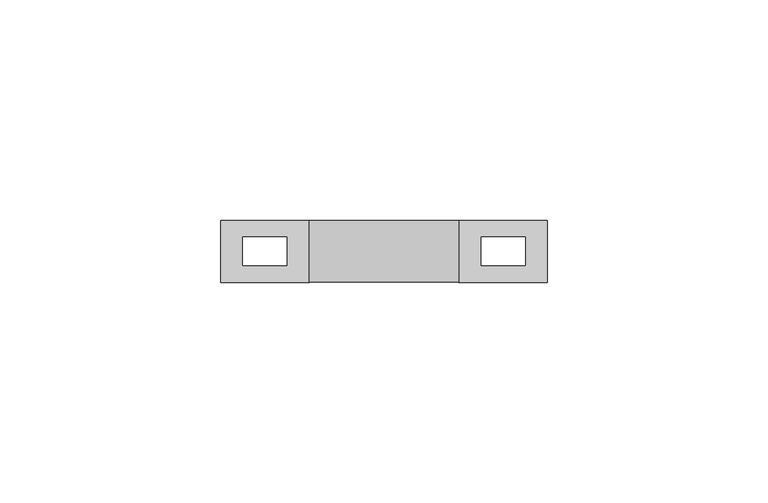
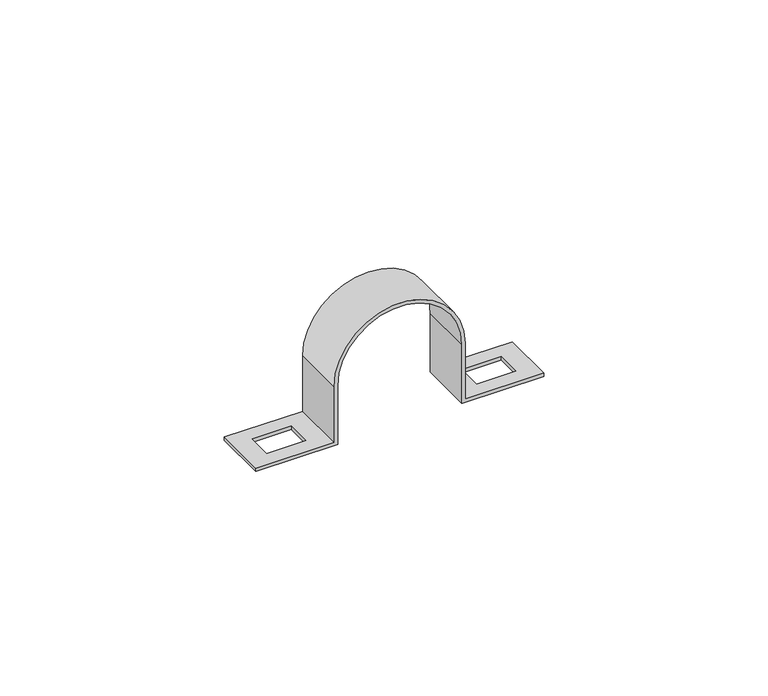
"""IFC4 building model written with IfcOpenShell, lengths in millimetres: cable carrier fitting geometry."""

from ifc_helpers import new_model, si_unit, frame, origin, place, context, project, spatial, polyline, circle_curve, source, transform, mapped, element, save
from ifc_brep_helpers import plane_surface, cylinder_surface, revolved_surface, advanced_brep


def cable_carrier_fitting_7ec1cf44(model_context):
    return source(origin(), model_context, "Body", "AdvancedBrep", [
        advanced_brep(
        [(37.0, -7.0, 0.0), (37.0, -7.0, 0.9), (16.9, -7.0, 0.9), (16.9, -7.0, 16.0), (-16.9, -7.0, 16.0), (-16.9, -7.0, 0.9), (-37.0, -7.0, 0.9), (-37.0, -7.0, 0.0), (-16.0, -7.0, 0.0), (-16.0, -7.0, 16.0), (16.0, -7.0, 16.0), (16.0, -7.0, 0.0), (37.0, 7.0, 0.0), (16.0, 7.0, 0.0), (16.0, 7.0, 16.0), (-16.0, 7.0, 16.0), (-16.0, 7.0, 0.0), (-37.0, 7.0, 0.0), (-37.0, 7.0, 0.9), (-16.9, 7.0, 0.9), (-16.9, 7.0, 16.0), (16.9, 7.0, 16.0), (16.9, 7.0, 0.9), (37.0, 7.0, 0.9), (32.0, -3.25, 0.9), (22.0, -3.25, 0.9), (22.0, 3.25, 0.9), (32.0, 3.25, 0.9), (-32.0, 3.25, 0.9), (-22.0, 3.25, 0.9), (-22.0, -3.25, 0.9), (-32.0, -3.25, 0.9), (-22.0, 3.25, 0.0), (-32.0, 3.25, 0.0), (-32.0, -3.25, 0.0), (-22.0, -3.25, 0.0), (22.0, -3.25, 0.0), (32.0, -3.25, 0.0), (32.0, 3.25, 0.0), (22.0, 3.25, 0.0)],
        [
            (0, 1),
            (1, 2),
            (2, 3),
            (3, 4, circle_curve(frame((0.0, -7.0, 16.0), z_axis=(0.0, -1.0, 0.0), x_axis=(1.0, 0.0, 0.0)), 16.9)),
            (4, 5),
            (5, 6),
            (6, 7),
            (7, 8),
            (8, 9),
            (9, 10, circle_curve(frame((0.0, -7.0, 16.0), z_axis=(0.0, 1.0, 0.0), x_axis=(1.0, 0.0, 0.0)), 16.0)),
            (10, 11),
            (11, 0),
            (12, 13),
            (13, 14),
            (14, 15, circle_curve(frame((0.0, 7.0, 16.0), z_axis=(0.0, -1.0, 0.0), x_axis=(1.0, 0.0, 0.0)), 16.0)),
            (15, 16),
            (16, 17),
            (17, 18),
            (18, 19),
            (19, 20),
            (20, 21, circle_curve(frame((0.0, 7.0, 16.0), z_axis=(0.0, 1.0, 0.0), x_axis=(1.0, 0.0, 0.0)), 16.9)),
            (21, 22),
            (22, 23),
            (23, 12),
            (0, 12),
            (23, 1),
            (22, 2),
            (24, 25),
            (25, 26),
            (26, 27),
            (27, 24),
            (21, 3),
            (20, 4),
            (19, 5),
            (18, 6),
            (28, 29),
            (29, 30),
            (30, 31),
            (31, 28),
            (17, 7),
            (16, 8),
            (32, 33),
            (33, 34),
            (34, 35),
            (35, 32),
            (15, 9),
            (14, 10),
            (13, 11),
            (36, 37),
            (37, 38),
            (38, 39),
            (39, 36),
            (32, 29),
            (28, 33),
            (31, 34),
            (30, 35),
            (36, 25),
            (24, 37),
            (27, 38),
            (26, 39),
        ],
        [
            plane_surface(frame((37.0, -7.0, 0.9), z_axis=(0.0, -1.0, 0.0), x_axis=(0.0, 0.0, 1.0))),
            plane_surface(frame((37.0, 7.0, 0.9), z_axis=(0.0, 1.0, 0.0), x_axis=(0.0, 0.0, -1.0))),
            plane_surface(frame((37.0, -7.0, 0.0), z_axis=(1.0, 0.0, 0.0), x_axis=(0.0, 1.0, 0.0))),
            plane_surface(frame((37.0, -7.0, 0.9), z_axis=(0.0, 0.0, 1.0), x_axis=(0.0, 1.0, 0.0))),
            plane_surface(frame((16.9, -7.0, 0.9), z_axis=(1.0, 0.0, 0.0), x_axis=(0.0, 1.0, 0.0))),
            cylinder_surface(frame((0.0, 7.0, 16.0), z_axis=(0.0, -1.0, 0.0), x_axis=(1.0, 0.0, 0.0)), 16.9),
            plane_surface(frame((-16.9, -7.0, 16.0), z_axis=(-1.0, 0.0, 0.0), x_axis=(0.0, 1.0, 0.0))),
            plane_surface(frame((-16.9, -7.0, 0.9), z_axis=(0.0, 0.0, 1.0), x_axis=(0.0, 1.0, 0.0))),
            plane_surface(frame((-37.0, -7.0, 0.9), z_axis=(-1.0, 0.0, 0.0), x_axis=(0.0, 1.0, 0.0))),
            plane_surface(frame((-37.0, -7.0, 0.0), z_axis=(0.0, 0.0, -1.0), x_axis=(0.0, 1.0, 0.0))),
            plane_surface(frame((-16.0, -7.0, 0.0), z_axis=(1.0, 0.0, 0.0), x_axis=(0.0, 1.0, 0.0))),
            revolved_surface(polyline([(16.0, 7.0, 16.0), (16.0, -7.0, 16.0)]), (0.0, 7.0, 16.0), (0.0, 1.0, 0.0)),
            plane_surface(frame((16.0, -7.0, 16.0), z_axis=(-1.0, 0.0, 0.0), x_axis=(0.0, 1.0, 0.0))),
            plane_surface(frame((16.0, -7.0, 0.0), z_axis=(0.0, 0.0, -1.0), x_axis=(0.0, 1.0, 0.0))),
            plane_surface(frame((-22.0, 3.25, 21.959409), z_axis=(0.0, -1.0, 0.0), x_axis=(0.0, 0.0, -1.0))),
            plane_surface(frame((-32.0, 3.25, 21.959409), z_axis=(1.0, 0.0, 0.0), x_axis=(0.0, 0.0, -1.0))),
            plane_surface(frame((-32.0, -3.25, 21.959409), z_axis=(0.0, 1.0, 0.0), x_axis=(0.0, 0.0, -1.0))),
            plane_surface(frame((-22.0, -3.25, 21.959409), z_axis=(-1.0, 0.0, 0.0), x_axis=(0.0, 0.0, -1.0))),
            plane_surface(frame((22.0, -3.25, 21.959409), z_axis=(0.0, 1.0, 0.0), x_axis=(0.0, 0.0, -1.0))),
            plane_surface(frame((32.0, -3.25, 21.959409), z_axis=(-1.0, 0.0, 0.0), x_axis=(0.0, 0.0, -1.0))),
            plane_surface(frame((32.0, 3.25, 21.959409), z_axis=(0.0, -1.0, 0.0), x_axis=(0.0, 0.0, -1.0))),
            plane_surface(frame((22.0, 3.25, 21.959409), z_axis=(1.0, 0.0, 0.0), x_axis=(0.0, 0.0, -1.0))),
        ],
        [
            (0, [[1, 2, 3, 4, 5, 6, 7, 8, 9, 10, 11, 12]]),
            (1, [[13, 14, 15, 16, 17, 18, 19, 20, 21, 22, 23, 24]]),
            (2, [[-1, 25, -24, 26]]),
            (3, [[-2, -26, -23, 27], [28, 29, 30, 31]]),
            (4, [[-3, -27, -22, 32]]),
            (5, [[-4, -32, -21, 33]]),
            (6, [[-5, -33, -20, 34]]),
            (7, [[-6, -34, -19, 35], [36, 37, 38, 39]]),
            (8, [[-7, -35, -18, 40]]),
            (9, [[-8, -40, -17, 41], [42, 43, 44, 45]]),
            (10, [[-9, -41, -16, 46]]),
            (11, [[-10, -46, -15, 47]]),
            (12, [[-11, -47, -14, 48]]),
            (13, [[-12, -48, -13, -25], [49, 50, 51, 52]]),
            (14, [[53, -36, 54, -42]]),
            (15, [[-54, -39, 55, -43]]),
            (16, [[-55, -38, 56, -44]]),
            (17, [[-53, -45, -56, -37]]),
            (18, [[57, -28, 58, -49]]),
            (19, [[-58, -31, 59, -50]]),
            (20, [[-59, -30, 60, -51]]),
            (21, [[-57, -52, -60, -29]]),
        ],
    ),
    ])


if __name__ == "__main__":
    model = new_model("IFC4")
    model_context = context("Model", 3, world=origin())
    ifc_project = project(units=[si_unit("LENGTHUNIT", "METRE", prefix="MILLI")], contexts=[model_context])
    site = spatial("IfcSite", under=ifc_project)
    building = spatial("IfcBuilding", under=site)
    placement = place(None, origin())
    cable_carrier_fitting_shape = cable_carrier_fitting_7ec1cf44(model_context)
    element("IfcCableCarrierFitting", 1, at=placement, inside=building, context=model_context, shape_type="MappedRepresentation", body=[
        mapped(cable_carrier_fitting_shape, transform((0.0, 0.0, 0.0), x_axis=(1.0, 0.0, 0.0), y_axis=(0.0, 1.0, 0.0), z_axis=(0.0, 0.0, 1.0))),
    ])
    save(model, "model.ifc")
